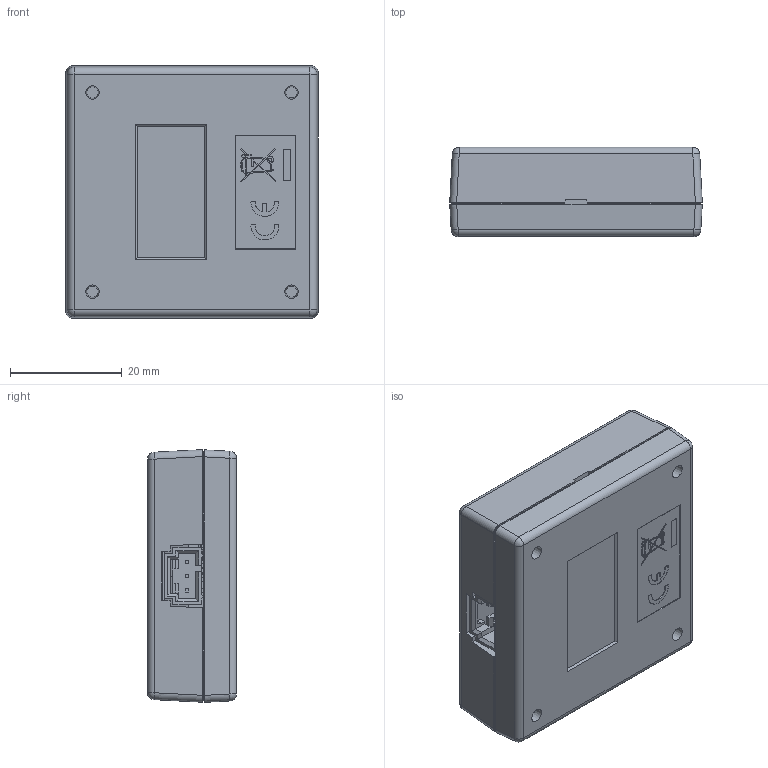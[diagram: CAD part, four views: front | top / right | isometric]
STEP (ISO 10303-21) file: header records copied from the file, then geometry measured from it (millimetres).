
FILE_DESCRIPTION(/* description */ ('Alibre Inc.'),/* implementation_level */ '2;1');
FILE_NAME(/* name */ 'export0',/* time_stamp */ '2018-08-08T13:14:39-06:00',/* author */ (''),/* organization */ (''),/* preprocessor_version */ 'ST-DEVELOPER v17',/* originating_system */ 'Alibre',/* authorisation */ '');
FILE_SCHEMA (('CONFIG_CONTROL_DESIGN'));
Length unit declared in the file: centimetre
Products named in the file (42): ID_1; ID_2; ID_3; ID_4; ID_5; ID_6; ID_7; ID_8; ID_9; ID_10; ID_11; ID_12; ID_13; ID_14; ID_15; ID_16
Bounding box: 45.11 x 15.86 x 45.12 mm (x, y, z)
Volume: 13763.3 mm3; surface area: 19222.7 mm2
Topology: 44 solids, 44 shells, 2672 faces, 7259 edges, 4739 vertices
Faces by surface type: plane 1769, bspline 433, cylinder 402, revolution 32, cone 28, sphere 8
Full cylindrical faces by diameter (mm): 0.6 x5, 0.965 x3, 1.321 x8, 3.099 x4, 3.175 x4
Entity records: 48901 total; most frequent: CARTESIAN_POINT 11422, ORIENTED_EDGE 7524, DIRECTION 5147, EDGE_CURVE 3762, VECTOR 2805, LINE 2805, VERTEX_POINT 2481, AXIS2_PLACEMENT_3D 1620
